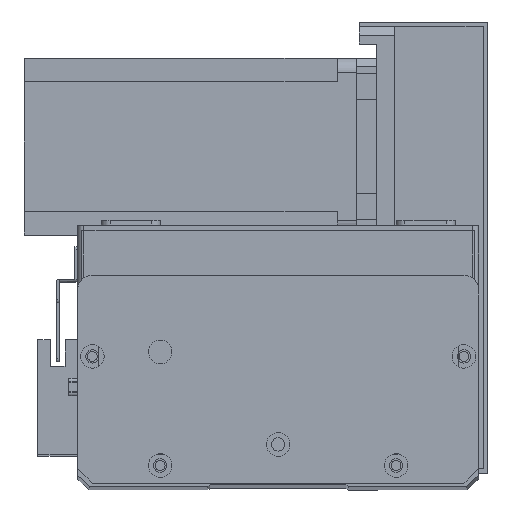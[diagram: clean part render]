
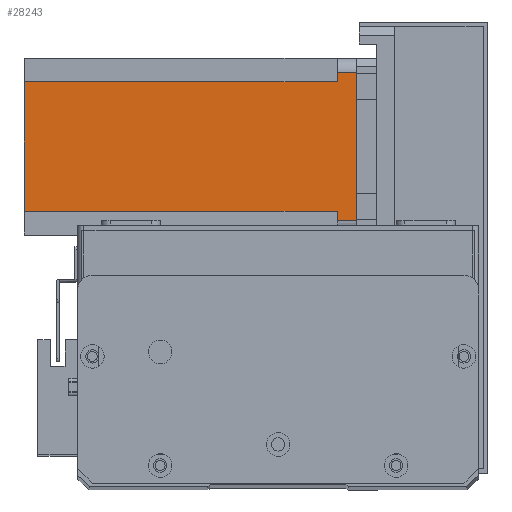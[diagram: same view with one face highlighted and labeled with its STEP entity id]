
A CAD part, top view. The second image highlights one B-rep face of the part: STEP entity #28243.
In plain terms, the highlighted planar face has unit normal (0, 0, 1) as drawn and (0, 1, 0) by its records, which use the part's own axes.
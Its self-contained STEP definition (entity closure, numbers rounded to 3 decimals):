
#555 = DIRECTION ( 'NONE',  ( 0., 1., 0. ) ) ;
#1591 = ORIENTED_EDGE ( 'NONE', *, *, #26542, .F. ) ;
#1697 = VECTOR ( 'NONE', #7384, 1000. ) ;
#2184 = EDGE_LOOP ( 'NONE', ( #23236, #3684, #11551, #18460, #25672, #1591, #6554, #9516 ) ) ;
#2188 = CARTESIAN_POINT ( 'NONE',  ( 5., 60., -112.5 ) ) ;
#2420 = VERTEX_POINT ( 'NONE', #7486 ) ;
#3457 = AXIS2_PLACEMENT_3D ( 'NONE', #18486, #555, #16384 ) ;
#3684 = ORIENTED_EDGE ( 'NONE', *, *, #23253, .T. ) ;
#4385 = CARTESIAN_POINT ( 'NONE',  ( 52., 60., -112.5 ) ) ;
#4434 = LINE ( 'NONE', #9301, #15068 ) ;
#4522 = DIRECTION ( 'NONE',  ( 0., 0., 1. ) ) ;
#4560 = VERTEX_POINT ( 'NONE', #25981 ) ;
#4755 = LINE ( 'NONE', #21784, #15366 ) ;
#5075 = DIRECTION ( 'NONE',  ( -1., 0., 0. ) ) ;
#5140 = VERTEX_POINT ( 'NONE', #21113 ) ;
#5934 = EDGE_CURVE ( 'NONE', #15437, #2420, #10714, .T. ) ;
#6226 = CARTESIAN_POINT ( 'NONE',  ( 0., 60., 0. ) ) ;
#6441 = VERTEX_POINT ( 'NONE', #12089 ) ;
#6554 = ORIENTED_EDGE ( 'NONE', *, *, #27061, .T. ) ;
#7384 = DIRECTION ( 'NONE',  ( 0., 0., -1. ) ) ;
#7396 = LINE ( 'NONE', #20860, #18558 ) ;
#7486 = CARTESIAN_POINT ( 'NONE',  ( 5., 60., 0. ) ) ;
#7808 = VERTEX_POINT ( 'NONE', #9586 ) ;
#7856 = VECTOR ( 'NONE', #4522, 1000. ) ;
#8325 = VERTEX_POINT ( 'NONE', #4385 ) ;
#8687 = LINE ( 'NONE', #9742, #9380 ) ;
#9301 = CARTESIAN_POINT ( 'NONE',  ( 52., 60., -112.5 ) ) ;
#9380 = VECTOR ( 'NONE', #18637, 1000. ) ;
#9516 = ORIENTED_EDGE ( 'NONE', *, *, #28655, .T. ) ;
#9586 = CARTESIAN_POINT ( 'NONE',  ( 52., 60., -6.5 ) ) ;
#9683 = PLANE ( 'NONE',  #3457 ) ;
#9742 = CARTESIAN_POINT ( 'NONE',  ( 8., 60., -6.5 ) ) ;
#10714 = LINE ( 'NONE', #6226, #27494 ) ;
#11551 = ORIENTED_EDGE ( 'NONE', *, *, #23822, .F. ) ;
#12089 = CARTESIAN_POINT ( 'NONE',  ( 5., 60., -6.5 ) ) ;
#12221 = VECTOR ( 'NONE', #16589, 1000. ) ;
#12928 = CARTESIAN_POINT ( 'NONE',  ( 8., 60., -6.5 ) ) ;
#15068 = VECTOR ( 'NONE', #26868, 1000. ) ;
#15366 = VECTOR ( 'NONE', #23962, 1000. ) ;
#15437 = VERTEX_POINT ( 'NONE', #21578 ) ;
#15929 = FACE_OUTER_BOUND ( 'NONE', #2184, .T. ) ;
#16299 = CARTESIAN_POINT ( 'NONE',  ( 55., 60., -112.5 ) ) ;
#16384 = DIRECTION ( 'NONE',  ( 0., 0., 1. ) ) ;
#16589 = DIRECTION ( 'NONE',  ( 0., 0., -1. ) ) ;
#18460 = ORIENTED_EDGE ( 'NONE', *, *, #24695, .F. ) ;
#18486 = CARTESIAN_POINT ( 'NONE',  ( 0., 60., -112.5 ) ) ;
#18558 = VECTOR ( 'NONE', #23061, 1000. ) ;
#18637 = DIRECTION ( 'NONE',  ( -1., 0., 0. ) ) ;
#19002 = VERTEX_POINT ( 'NONE', #12928 ) ;
#20314 = LINE ( 'NONE', #16299, #1697 ) ;
#20860 = CARTESIAN_POINT ( 'NONE',  ( 52., 60., -6.5 ) ) ;
#21113 = CARTESIAN_POINT ( 'NONE',  ( 8., 60., -112.5 ) ) ;
#21578 = CARTESIAN_POINT ( 'NONE',  ( 55., 60., 0. ) ) ;
#21784 = CARTESIAN_POINT ( 'NONE',  ( 0., 60., -112.5 ) ) ;
#23061 = DIRECTION ( 'NONE',  ( 1., 0., 0. ) ) ;
#23081 = CARTESIAN_POINT ( 'NONE',  ( 8., 60., -112.5 ) ) ;
#23236 = ORIENTED_EDGE ( 'NONE', *, *, #5934, .F. ) ;
#23253 = EDGE_CURVE ( 'NONE', #15437, #4560, #20314, .T. ) ;
#23822 = EDGE_CURVE ( 'NONE', #7808, #4560, #7396, .T. ) ;
#23962 = DIRECTION ( 'NONE',  ( -1., 0., 0. ) ) ;
#24574 = LINE ( 'NONE', #23081, #12221 ) ;
#24695 = EDGE_CURVE ( 'NONE', #8325, #7808, #4434, .T. ) ;
#25482 = LINE ( 'NONE', #2188, #7856 ) ;
#25672 = ORIENTED_EDGE ( 'NONE', *, *, #26194, .T. ) ;
#25981 = CARTESIAN_POINT ( 'NONE',  ( 55., 60., -6.5 ) ) ;
#26194 = EDGE_CURVE ( 'NONE', #8325, #5140, #4755, .T. ) ;
#26542 = EDGE_CURVE ( 'NONE', #19002, #5140, #24574, .T. ) ;
#26868 = DIRECTION ( 'NONE',  ( 0., 0., 1. ) ) ;
#27061 = EDGE_CURVE ( 'NONE', #19002, #6441, #8687, .T. ) ;
#27494 = VECTOR ( 'NONE', #5075, 1000. ) ;
#28243 = ADVANCED_FACE ( 'NONE', ( #15929 ), #9683, .T. ) ;
#28655 = EDGE_CURVE ( 'NONE', #6441, #2420, #25482, .T. ) ;
